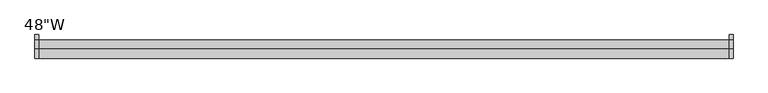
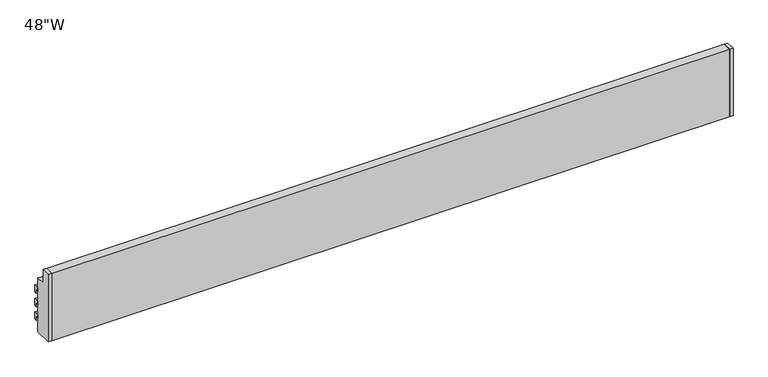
"""IFC4 building model written with IfcOpenShell, lengths in millimetres: furniture geometry."""

import ifcopenshell
import ifcopenshell.guid

model = None  # the IFC model being written
_history = None  # IfcOwnerHistory: only IFC2X3 demands one
_inside = {}  # id of a spatial element -> (the spatial element, [elements in it])
_under = {}  # id of a project, library or spatial element -> (it, [spatial elements below it])
_declared = {}  # id of a project -> (the project, [libraries it declares])
_typed = {}  # id of a type object -> (the type object, [elements of that type])
_made_of = {}  # id of a material, layer set ... -> (it, [elements and type objects made of it])


def new_model(schema):
    """Start an empty IFC model of exactly this schema.

    Asked for "IFC4X3", IfcOpenShell would pick the latest addendum, in which some entities
    have other attributes; the version numbers below select the first issue.
    IFC2X3 requires an IfcOwnerHistory on every rooted entity: one is made here for all.
    """
    global model, _history
    if schema == "IFC4X3":
        model = ifcopenshell.file(schema_version=(4, 3, 0, 0))
    else:
        model = ifcopenshell.file(schema=schema)
    _inside.clear()
    _under.clear()
    _declared.clear()
    _typed.clear()
    _made_of.clear()
    _history = None
    if model.schema == "IFC2X3":
        org = make("IfcOrganization", Name="unknown")
        user = make(
            "IfcPersonAndOrganization",
            ThePerson=make("IfcPerson", FamilyName="unknown"),
            TheOrganization=org,
        )
        app = make(
            "IfcApplication",
            ApplicationDeveloper=org,
            Version="unknown",
            ApplicationFullName="unknown",
            ApplicationIdentifier="unknown",
        )
        _history = make(
            "IfcOwnerHistory",
            OwningUser=user,
            OwningApplication=app,
            ChangeAction="ADDED",
            CreationDate=0,
        )
    return model


def make(cls, **values):
    """One entity of the class cls with the attributes given. An attribute that is None is left unset."""
    return model.create_entity(
        cls, **{name: value for name, value in values.items() if value is not None}
    )


def rooted(cls, **values):
    """An entity with a GlobalId (a new one), such as an element, a storey or a relation."""
    return make(cls, GlobalId=ifcopenshell.guid.new(), OwnerHistory=_history, **values)


def si_unit(unit_type, name, prefix=None):
    """IfcSIUnit, for example si_unit("LENGTHUNIT", "METRE", prefix="MILLI")."""
    return make("IfcSIUnit", UnitType=unit_type, Prefix=prefix, Name=name)


def assignment(units):
    """IfcUnitAssignment: the units of a project."""
    return None if units is None else make("IfcUnitAssignment", Units=units)


def point(xyz):
    """IfcCartesianPoint."""
    return None if xyz is None else make("IfcCartesianPoint", Coordinates=xyz)


def direction(xyz):
    """IfcDirection."""
    return None if xyz is None else make("IfcDirection", DirectionRatios=xyz)


def frame(location, z_axis=None, x_axis=None):
    """IfcAxis2Placement3D, a coordinate frame: its origin and axes. An axis left out is left unset."""
    return make(
        "IfcAxis2Placement3D",
        Location=point(location),
        Axis=direction(z_axis),
        RefDirection=direction(x_axis),
    )


def origin():
    """The frame at (0, 0, 0) with its axes left unset."""
    return frame((0.0, 0.0, 0.0))


def place(relative_to, where):
    """IfcLocalPlacement: puts the frame where relative to a parent placement (None: the world)."""
    return make(
        "IfcLocalPlacement", PlacementRelTo=relative_to, RelativePlacement=where
    )


def context(
    kind, dimensions, precision=None, world=None, true_north=None, identifier=None
):
    """IfcGeometricRepresentationContext, for example the 3D "Model" context."""
    return make(
        "IfcGeometricRepresentationContext",
        ContextIdentifier=identifier,
        ContextType=kind,
        CoordinateSpaceDimension=dimensions,
        Precision=precision,
        WorldCoordinateSystem=world,
        TrueNorth=true_north,
    )


def project(units=None, contexts=None):
    """IfcProject with its units and contexts."""
    return rooted(
        "IfcProject",
        Name="project",
        RepresentationContexts=contexts,
        UnitsInContext=assignment(units),
    )


def spatial(cls, under=None, at=None, **own):
    """A site, building, storey or space (cls), placed at a placement, below another one or the project."""
    s = rooted(cls, ObjectPlacement=at, **own)
    if under is not None:
        _under.setdefault(under.id(), (under, []))[1].append(s)
    return s


def polyline(points):
    """IfcPolyline through the points."""
    return make("IfcPolyline", Points=[point(p) for p in points])


def outline(outer, holes=None, kind="AREA"):
    """IfcArbitraryClosedProfileDef: a profile drawn as a closed curve; with holes, ...WithVoids."""
    if holes is None:
        return make("IfcArbitraryClosedProfileDef", ProfileType=kind, OuterCurve=outer)
    return make(
        "IfcArbitraryProfileDefWithVoids",
        ProfileType=kind,
        OuterCurve=outer,
        InnerCurves=holes,
    )


def extrude(swept, where, along, depth):
    """IfcExtrudedAreaSolid: the profile swept, set in the frame where, extruded along a direction by depth."""
    return make(
        "IfcExtrudedAreaSolid",
        SweptArea=swept,
        Position=where,
        ExtrudedDirection=direction(along),
        Depth=depth,
    )


def shape(context_of_items, identifier, shape_type, items):
    """IfcShapeRepresentation: the items that make up one representation, for example the "Body"."""
    return make(
        "IfcShapeRepresentation",
        ContextOfItems=context_of_items,
        RepresentationIdentifier=identifier,
        RepresentationType=shape_type,
        Items=items,
    )


def source(mapping_origin, context_of_items, identifier, shape_type, items):
    """IfcRepresentationMap: a shape defined once, which mapped items show again and again."""
    return make(
        "IfcRepresentationMap",
        MappingOrigin=mapping_origin,
        MappedRepresentation=shape(context_of_items, identifier, shape_type, items),
    )


def transform(
    local_origin,
    x_axis=None,
    y_axis=None,
    z_axis=None,
    scale=None,
    scale2=None,
    scale3=None,
    uniform=True,
):
    """IfcCartesianTransformationOperator3D, or its non-uniform kind. x_axis, y_axis, z_axis: its Axis1, 2, 3."""
    if uniform:
        return make(
            "IfcCartesianTransformationOperator3D",
            Axis1=direction(x_axis),
            Axis2=direction(y_axis),
            LocalOrigin=point(local_origin),
            Scale=scale,
            Axis3=direction(z_axis),
        )
    return make(
        "IfcCartesianTransformationOperator3DnonUniform",
        Axis1=direction(x_axis),
        Axis2=direction(y_axis),
        LocalOrigin=point(local_origin),
        Scale=scale,
        Axis3=direction(z_axis),
        Scale2=scale2,
        Scale3=scale3,
    )


def mapped(mapping_source, mapping_target):
    """IfcMappedItem: shows the shape of a source again, moved by a transform."""
    return make(
        "IfcMappedItem", MappingSource=mapping_source, MappingTarget=mapping_target
    )


def made_of(thing, what):
    """Note that an element or type object is made of a material, layer set ...; save() writes the relation."""
    if what is not None:
        _made_of.setdefault(what.id(), (what, []))[1].append(thing)
    return thing


def element(
    cls,
    number,
    at=None,
    inside=None,
    cuts=None,
    type_object=None,
    material=None,
    context=None,
    identifier="Body",
    shape_type=None,
    held_by="IfcProductDefinitionShape",
    body=None,
    shapes=None,
    **own,
):
    """One element of the class cls, such as IfcWall. Its Tag is "e" and its number.

    at: its placement. inside: the storey or other place that contains it. cuts: it is an
    opening in that element (IfcRelVoidsElement). A single representation is given by context,
    identifier, shape_type and body (its items); several are given by shapes. held_by: the class
    of the entity that holds the representations. save() writes the other relations.
    """
    e = rooted(cls, Tag="e%d" % number, ObjectPlacement=at, **own)
    if body is not None:
        shapes = [shape(context, identifier, shape_type, body)]
    if shapes is not None:
        e.Representation = make(held_by, Representations=shapes)
    if inside is not None:
        _inside.setdefault(inside.id(), (inside, []))[1].append(e)
    if cuts is not None:
        rooted(
            "IfcRelVoidsElement", RelatingBuildingElement=cuts, RelatedOpeningElement=e
        )
    if type_object is not None:
        _typed.setdefault(type_object.id(), (type_object, []))[1].append(e)
    return made_of(e, material)


def aggregate(whole, parts):
    """IfcRelAggregates: a whole, such as a stair, and the parts it consists of."""
    return rooted("IfcRelAggregates", RelatingObject=whole, RelatedObjects=parts)


def save(model, path):
    """Write the relations noted so far, then the file.

    IfcRelAggregates (storeys below a building ...), IfcRelContainedInSpatialStructure (elements
    in a storey), IfcRelDefinesByType, IfcRelAssociatesMaterial and IfcRelDeclares: one each for
    every whole, place, type object, material and project.
    """
    for whole, parts in _under.values():
        aggregate(whole, parts)
    for where, things in _inside.values():
        rooted(
            "IfcRelContainedInSpatialStructure",
            RelatedElements=things,
            RelatingStructure=where,
        )
    for kind, things in _typed.values():
        rooted("IfcRelDefinesByType", RelatedObjects=things, RelatingType=kind)
    for what, things in _made_of.values():
        rooted("IfcRelAssociatesMaterial", RelatedObjects=things, RelatingMaterial=what)
    for by, libraries in _declared.values():
        rooted("IfcRelDeclares", RelatingContext=by, RelatedDefinitions=libraries)
    model.write(path)


def furniture_2fefcdf8(model_context):
    return source(origin(), model_context, "Body", "SweptSolid", [
        extrude(outline(polyline([(25.4, 361.95), (25.4, 349.25), (20.6375, 349.25), (20.6375, 355.6), (15.875, 355.6), (15.875, 361.95), (25.4, 361.95)])), frame((-609.6, 0.0, 0.0), z_axis=(1.0, 0.0, 0.0), x_axis=(0.0, 1.0, 0.0)), (0.0, 0.0, 1.0), 6.35),
        extrude(outline(polyline([(25.4, 336.55), (25.4, 323.85), (20.6375, 323.85), (20.6375, 330.2), (15.875, 330.2), (15.875, 336.55), (25.4, 336.55)])), frame((-609.6, 0.0, 0.0), z_axis=(1.0, 0.0, 0.0), x_axis=(0.0, 1.0, 0.0)), (0.0, 0.0, 1.0), 6.35),
        extrude(outline(polyline([(25.4, 311.15), (25.4, 298.45), (20.6375, 298.45), (20.6375, 304.8), (15.875, 304.8), (15.875, 311.15), (25.4, 311.15)])), frame((-609.6, 0.0, 0.0), z_axis=(1.0, 0.0, 0.0), x_axis=(0.0, 1.0, 0.0)), (0.0, 0.0, 1.0), 6.35),
        extrude(outline(polyline([(25.4, 361.95), (25.4, 349.25), (20.6375, 349.25), (20.6375, 355.6), (15.875, 355.6), (15.875, 361.95), (25.4, 361.95)])), frame((603.25, 0.0, 0.0), z_axis=(1.0, 0.0, 0.0), x_axis=(0.0, 1.0, 0.0)), (0.0, 0.0, 1.0), 6.35),
        extrude(outline(polyline([(25.4, 336.55), (25.4, 323.85), (20.6375, 323.85), (20.6375, 330.2), (15.875, 330.2), (15.875, 336.55), (25.4, 336.55)])), frame((603.25, 0.0, 0.0), z_axis=(1.0, 0.0, 0.0), x_axis=(0.0, 1.0, 0.0)), (0.0, 0.0, 1.0), 6.35),
        extrude(outline(polyline([(25.4, 311.15), (25.4, 298.45), (20.6375, 298.45), (20.6375, 304.8), (15.875, 304.8), (15.875, 311.15), (25.4, 311.15)])), frame((603.25, 0.0, 0.0), z_axis=(1.0, 0.0, 0.0), x_axis=(0.0, 1.0, 0.0)), (0.0, 0.0, 1.0), 6.35),
        extrude(outline(polyline([(0.0, 406.4), (0.0, 381.0), (15.875, 381.0), (15.875, 279.4), (-15.875, 279.4), (-15.875, 406.4), (0.0, 406.4)])), frame((-609.6, 0.0, 0.0), z_axis=(1.0, 0.0, 0.0), x_axis=(0.0, 1.0, 0.0)), (0.0, 0.0, 1.0), 6.35),
        extrude(outline(polyline([(0.0, 406.4), (0.0, 381.0), (15.875, 381.0), (15.875, 279.4), (-15.875, 279.4), (-15.875, 406.4), (0.0, 406.4)])), frame((603.25, 0.0, 0.0), z_axis=(1.0, 0.0, 0.0), x_axis=(0.0, 1.0, 0.0)), (0.0, 0.0, 1.0), 6.35),
        extrude(outline(polyline([(0.0, 406.4), (0.0, 381.0), (15.875, 381.0), (15.875, 279.4), (-15.875, 279.4), (-15.875, 406.4), (0.0, 406.4)])), frame((-603.25, 0.0, 0.0), z_axis=(1.0, 0.0, 0.0), x_axis=(0.0, 1.0, 0.0)), (0.0, 0.0, 1.0), 1206.5),
    ])


if __name__ == "__main__":
    model = new_model("IFC4")
    model_context = context("Model", 3, world=origin())
    ifc_project = project(units=[si_unit("LENGTHUNIT", "METRE", prefix="MILLI")], contexts=[model_context])
    site = spatial("IfcSite", under=ifc_project)
    building = spatial("IfcBuilding", under=site)
    placement = place(None, origin())
    furniture_shape = furniture_2fefcdf8(model_context)
    element("IfcFurniture", 1, ObjectType="HermanMiller_CoStruc_C1610_AdapterRail : 48\"W", at=placement, inside=building, context=model_context, shape_type="MappedRepresentation", body=[
        mapped(furniture_shape, transform((0.0, 0.0, 0.0), x_axis=(1.0, 0.0, 0.0), y_axis=(0.0, 1.0, 0.0), z_axis=(0.0, 0.0, 1.0))),
    ])
    save(model, "model.ifc")
